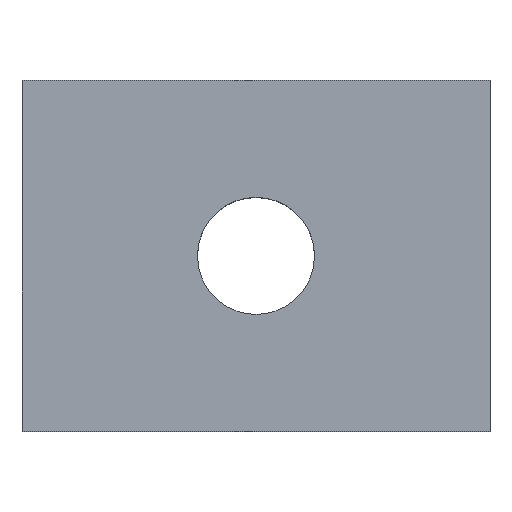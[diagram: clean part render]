
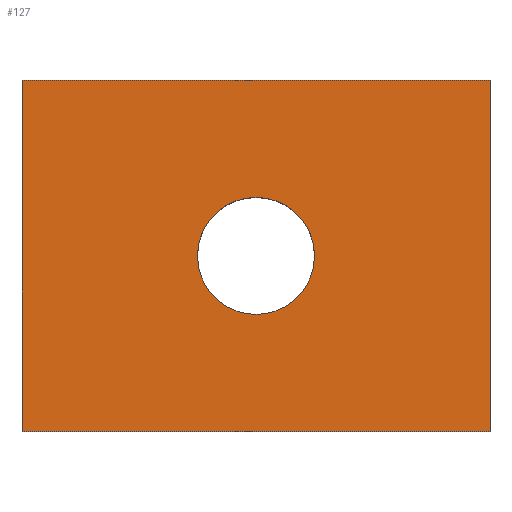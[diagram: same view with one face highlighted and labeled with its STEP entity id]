
A CAD part, top view. The second image highlights one B-rep face of the part: STEP entity #127.
In plain terms, the highlighted planar face has unit normal (0, 0, 1).
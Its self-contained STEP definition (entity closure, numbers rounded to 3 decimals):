
#14=CARTESIAN_POINT('',(0.,0.,10.));
#15=VERTEX_POINT('',#14);
#16=CARTESIAN_POINT('',(40.,0.,10.));
#17=VERTEX_POINT('',#16);
#18=CARTESIAN_POINT('',(40.,30.,10.));
#19=VERTEX_POINT('',#18);
#20=CARTESIAN_POINT('',(0.,30.,10.));
#21=VERTEX_POINT('',#20);
#42=DIRECTION('',(1.,0.,0.));
#43=VECTOR('',#42,40.);
#44=CARTESIAN_POINT('',(0.,0.,10.));
#45=LINE('',#44,#43);
#46=EDGE_CURVE('',#15,#17,#45,.T.);
#47=DIRECTION('',(0.,1.,0.));
#48=VECTOR('',#47,30.);
#49=CARTESIAN_POINT('',(40.,0.,10.));
#50=LINE('',#49,#48);
#51=EDGE_CURVE('',#17,#19,#50,.T.);
#52=DIRECTION('',(-1.,0.,0.));
#53=VECTOR('',#52,40.);
#54=CARTESIAN_POINT('',(40.,30.,10.));
#55=LINE('',#54,#53);
#56=EDGE_CURVE('',#19,#21,#55,.T.);
#57=DIRECTION('',(0.,-1.,0.));
#58=VECTOR('',#57,30.);
#59=CARTESIAN_POINT('',(0.,30.,10.));
#60=LINE('',#59,#58);
#61=EDGE_CURVE('',#21,#15,#60,.T.);
#90=CARTESIAN_POINT('',(20.,15.,10.));
#91=DIRECTION('',(0.,0.,1.));
#92=DIRECTION('',(1.,0.,0.));
#93=AXIS2_PLACEMENT_3D('',#90,#91,#92);
#94=CIRCLE('',#93,5.);
#95=CARTESIAN_POINT('',(25.,15.,10.));
#96=VERTEX_POINT('',#95);
#97=EDGE_CURVE('',#96,#96,#94,.T.);
#113=ORIENTED_EDGE('',*,*,#46,.T.);
#114=ORIENTED_EDGE('',*,*,#51,.T.);
#115=ORIENTED_EDGE('',*,*,#56,.T.);
#116=ORIENTED_EDGE('',*,*,#61,.T.);
#117=EDGE_LOOP('',(#113,#114,#115,#116));
#118=FACE_OUTER_BOUND('',#117,.T.);
#119=ORIENTED_EDGE('',*,*,#97,.T.);
#120=EDGE_LOOP('',(#119));
#121=FACE_BOUND('',#120,.T.);
#122=CARTESIAN_POINT('',(0.,0.,10.));
#123=DIRECTION('',(0.,0.,1.));
#124=DIRECTION('',(1.,0.,0.));
#125=AXIS2_PLACEMENT_3D('',#122,#123,#124);
#126=PLANE('',#125);
#127=ADVANCED_FACE('',(#118,#121),#126,.T.);
